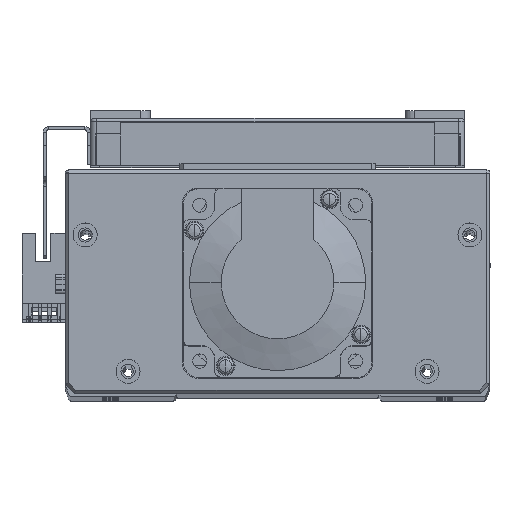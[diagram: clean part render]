
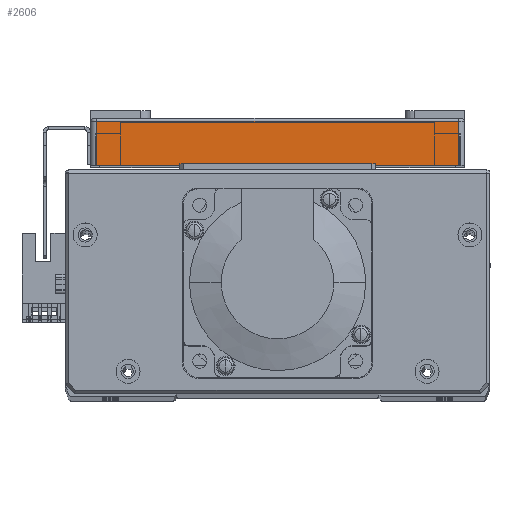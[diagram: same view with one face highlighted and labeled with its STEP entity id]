
A CAD part, top view. The second image highlights one B-rep face of the part: STEP entity #2606.
In plain terms, the highlighted planar face has unit normal (0, 0, 1) as drawn and (-1, 0, 0) by its records, which use the part's own axes.
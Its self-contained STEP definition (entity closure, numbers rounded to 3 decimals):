
#2606 = ADVANCED_FACE ( 'NONE', ( #26618 ), #52449, .F. ) ;
#14569 = LINE ( 'NONE', #18098, #14579 ) ;
#14579 = VECTOR ( 'NONE', #18099, 1000. ) ;
#14633 = VECTOR ( 'NONE', #18075, 1000. ) ;
#14641 = VECTOR ( 'NONE', #18076, 1000. ) ;
#14642 = LINE ( 'NONE', #18090, #14633 ) ;
#14687 = LINE ( 'NONE', #18097, #14641 ) ;
#14768 = LINE ( 'NONE', #15205, #14769 ) ;
#14769 = VECTOR ( 'NONE', #15155, 1000. ) ;
#15155 = DIRECTION ( 'NONE',  ( 0., 0., -1. ) ) ;
#15205 = CARTESIAN_POINT ( 'NONE',  ( -95., 14., -57.5 ) ) ;
#17483 = CARTESIAN_POINT ( 'NONE',  ( -95., 14., -57.5 ) ) ;
#17490 = CARTESIAN_POINT ( 'NONE',  ( -95., 0., 57.5 ) ) ;
#17576 = CARTESIAN_POINT ( 'NONE',  ( -95., 0., -57.5 ) ) ;
#17582 = CARTESIAN_POINT ( 'NONE',  ( -95., 14., 57.5 ) ) ;
#18075 = DIRECTION ( 'NONE',  ( 0., -1., 0. ) ) ;
#18076 = DIRECTION ( 'NONE',  ( 0., 0., 1. ) ) ;
#18090 = CARTESIAN_POINT ( 'NONE',  ( -95., 15., -57.5 ) ) ;
#18097 = CARTESIAN_POINT ( 'NONE',  ( -95., 0., -59.5 ) ) ;
#18098 = CARTESIAN_POINT ( 'NONE',  ( -95., 15., 57.5 ) ) ;
#18099 = DIRECTION ( 'NONE',  ( 0., 1., 0. ) ) ;
#23636 = AXIS2_PLACEMENT_3D ( 'NONE', #52613, #52535, #52521 ) ;
#26618 = FACE_OUTER_BOUND ( 'NONE', #42781, .T. ) ;
#32971 = ORIENTED_EDGE ( 'NONE', *, *, #51400, .T. ) ;
#32987 = ORIENTED_EDGE ( 'NONE', *, *, #51299, .T. ) ;
#33036 = ORIENTED_EDGE ( 'NONE', *, *, #51308, .T. ) ;
#33060 = ORIENTED_EDGE ( 'NONE', *, *, #51298, .T. ) ;
#42781 = EDGE_LOOP ( 'NONE', ( #33060, #32971, #32987, #33036 ) ) ;
#49269 = VERTEX_POINT ( 'NONE', #17483 ) ;
#49300 = VERTEX_POINT ( 'NONE', #17490 ) ;
#49309 = VERTEX_POINT ( 'NONE', #17582 ) ;
#49319 = VERTEX_POINT ( 'NONE', #17576 ) ;
#51298 = EDGE_CURVE ( 'NONE', #49300, #49309, #14569, .T. ) ;
#51299 = EDGE_CURVE ( 'NONE', #49269, #49319, #14642, .T. ) ;
#51308 = EDGE_CURVE ( 'NONE', #49319, #49300, #14687, .T. ) ;
#51400 = EDGE_CURVE ( 'NONE', #49309, #49269, #14768, .T. ) ;
#52449 = PLANE ( 'NONE',  #23636 ) ;
#52521 = DIRECTION ( 'NONE',  ( 0., 0., -1. ) ) ;
#52535 = DIRECTION ( 'NONE',  ( 1., 0., 0. ) ) ;
#52613 = CARTESIAN_POINT ( 'NONE',  ( -95., 15., -59.5 ) ) ;
